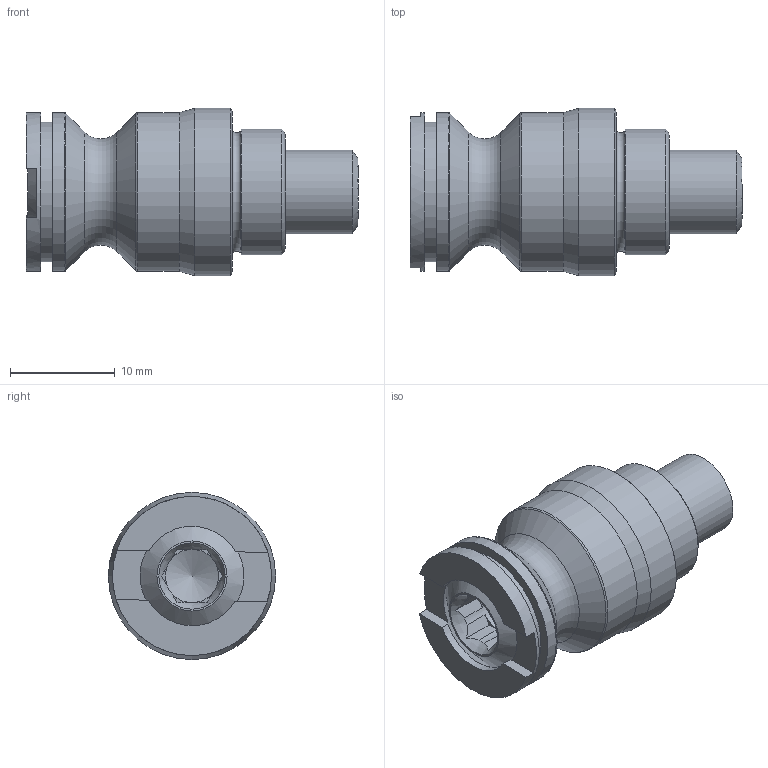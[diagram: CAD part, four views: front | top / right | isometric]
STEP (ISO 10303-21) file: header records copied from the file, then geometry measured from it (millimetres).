
FILE_DESCRIPTION (( 'STEP AP214' ), '1' );
FILE_NAME ('PS16F-PY_WEBSITE.STEP', '2025-08-11T12:24:39', ( '' ), ( '' ), 'SwSTEP 2.0', 'SolidWorks 2025', '' );
FILE_SCHEMA (( 'AUTOMOTIVE_DESIGN' ));
Length unit declared in the file: inch
Products named in the file (4): D_PS16F-PY_WEBSITE_HARD TURN; PS16F-PY_WEBSITE; D_91390A145_ALLOY STEEL CUP POINT SET SCREW_WEBSITE_91390A145; D_RL52-PY_WEBSITE
Assembly tree (3 placements, depth 2):
  PS16F-PY_WEBSITE
    D_PS16F-PY_WEBSITE_HARD TURN
    D_91390A145_ALLOY STEEL CUP POINT SET SCREW_WEBSITE_91390A145
    D_RL52-PY_WEBSITE
Bounding box: 31.77 x 16 x 16 mm (x, y, z)
Volume: 3976.6 mm3; surface area: 2875.8 mm2
Topology: 3 solids, 3 shells, 82 faces, 194 edges, 119 vertices
Faces by surface type: plane 45, cone 20, cylinder 11, torus 6
Full cylindrical faces by diameter (mm): 5.105 x1, 6.8 x1, 8 x1, 11.991 x1, 13.35 x1, 15.202 x1, 15.215 x2, 15.997 x1
Entity records: 2587 total; most frequent: CARTESIAN_POINT 486, DIRECTION 370, ORIENTED_EDGE 302, AXIS2_PLACEMENT_3D 153, EDGE_CURVE 151, EDGE_LOOP 114, VERTEX_POINT 105, FACE_OUTER_BOUND 97
